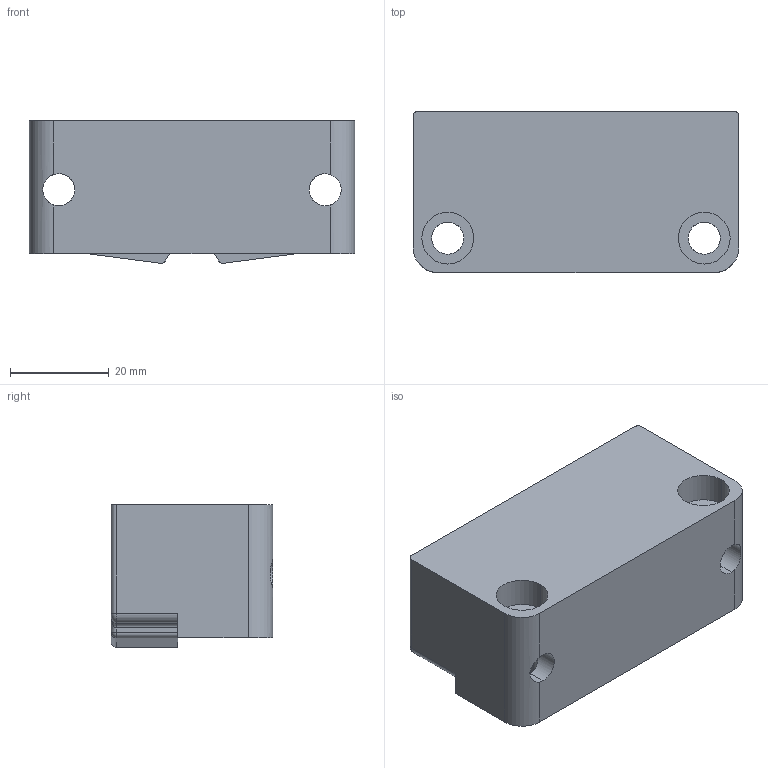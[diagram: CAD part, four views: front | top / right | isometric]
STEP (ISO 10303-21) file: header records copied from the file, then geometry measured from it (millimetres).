
FILE_DESCRIPTION (( 'STEP AP214' ), '1' );
FILE_NAME ('L19170-verrou.step', '2024-12-03T16:23:27', ( '' ), ( '' ), 'SwSTEP 2.0', 'SolidWorks 2023', '' );
FILE_SCHEMA (( 'AUTOMOTIVE_DESIGN' ));
Length unit declared in the file: millimetre
Products named in the file (1): L19170-verrou
Bounding box: 66 x 32.75 x 28.92 mm (x, y, z)
Volume: 51267 mm3; surface area: 11962.8 mm2
Topology: 1 solids, 1 shells, 82 faces, 218 edges, 130 vertices
Faces by surface type: cylinder 46, plane 26, torus 4, sphere 4, bspline 2
Entity records: 3575 total; most frequent: CARTESIAN_POINT 1547, DIRECTION 426, ORIENTED_EDGE 420, EDGE_CURVE 210, AXIS2_PLACEMENT_3D 159, VERTEX_POINT 128, LINE 108, VECTOR 108
